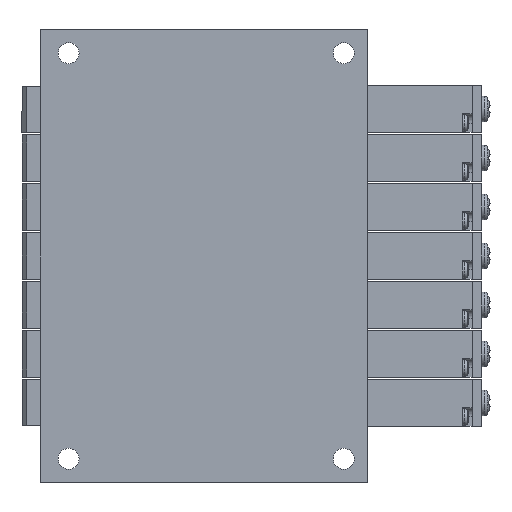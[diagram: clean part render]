
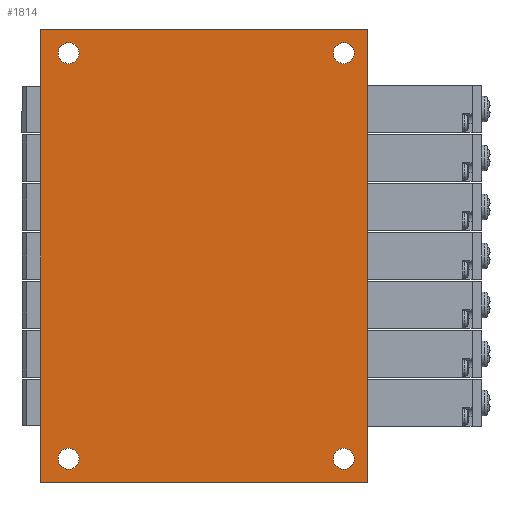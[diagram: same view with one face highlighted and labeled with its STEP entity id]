
A CAD part, front view. The second image highlights one B-rep face of the part: STEP entity #1814.
In plain terms, the highlighted planar face has unit normal (0, -1, 0) as drawn and (0, 0, 1) by its records, which use the part's own axes.
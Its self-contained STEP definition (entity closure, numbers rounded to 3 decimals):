
#1814=ADVANCED_FACE('',(#3942,#3943,#3944,#3945,#3946),#3947,.T.);
#3942=FACE_BOUND('',#6594,.T.);
#3943=FACE_BOUND('',#6595,.T.);
#3944=FACE_BOUND('',#6596,.T.);
#3945=FACE_BOUND('',#6597,.T.);
#3946=FACE_OUTER_BOUND('',#6598,.T.);
#3947=PLANE('',#6599);
#6594=EDGE_LOOP('',(#13767));
#6595=EDGE_LOOP('',(#13768));
#6596=EDGE_LOOP('',(#13769));
#6597=EDGE_LOOP('',(#13770));
#6598=EDGE_LOOP('',(#13771,#13772,#13773,#13774));
#6599=AXIS2_PLACEMENT_3D('',#13775,#13776,#13777);
#13767=ORIENTED_EDGE('',*,*,#18991,.F.);
#13768=ORIENTED_EDGE('',*,*,#18992,.T.);
#13769=ORIENTED_EDGE('',*,*,#18993,.F.);
#13770=ORIENTED_EDGE('',*,*,#18994,.T.);
#13771=ORIENTED_EDGE('',*,*,#18995,.T.);
#13772=ORIENTED_EDGE('',*,*,#18996,.T.);
#13773=ORIENTED_EDGE('',*,*,#18997,.T.);
#13774=ORIENTED_EDGE('',*,*,#18998,.T.);
#13775=CARTESIAN_POINT('',(-48.5,-35.0,25.889));
#13776=DIRECTION('',(0.0,0.0,1.0));
#13777=DIRECTION('',(1.0,0.0,0.0));
#18991=EDGE_CURVE('',#23314,#23314,#23315,.T.);
#18992=EDGE_CURVE('',#23316,#23316,#23317,.T.);
#18993=EDGE_CURVE('',#23318,#23318,#23319,.T.);
#18994=EDGE_CURVE('',#23320,#23320,#23321,.T.);
#18995=EDGE_CURVE('',#23322,#23323,#23324,.T.);
#18996=EDGE_CURVE('',#23323,#23325,#23326,.T.);
#18997=EDGE_CURVE('',#23325,#23327,#23328,.T.);
#18998=EDGE_CURVE('',#23327,#23322,#23329,.T.);
#23314=VERTEX_POINT('',#30478);
#23315=CIRCLE('',#30479,2.25);
#23316=VERTEX_POINT('',#30480);
#23317=CIRCLE('',#30481,2.25);
#23318=VERTEX_POINT('',#30482);
#23319=CIRCLE('',#30483,2.25);
#23320=VERTEX_POINT('',#30484);
#23321=CIRCLE('',#30485,2.25);
#23322=VERTEX_POINT('',#30486);
#23323=VERTEX_POINT('',#30487);
#23324=LINE('',#30488,#30489);
#23325=VERTEX_POINT('',#30490);
#23326=LINE('',#30491,#30492);
#23327=VERTEX_POINT('',#30493);
#23328=LINE('',#30494,#30495);
#23329=LINE('',#30496,#30497);
#30478=CARTESIAN_POINT('',(45.75,30.0,25.889));
#30479=AXIS2_PLACEMENT_3D('',#35926,#35927,#35928);
#30480=CARTESIAN_POINT('',(-45.75,30.0,25.889));
#30481=AXIS2_PLACEMENT_3D('',#35929,#35930,#35931);
#30482=CARTESIAN_POINT('',(45.75,-29.0,25.889));
#30483=AXIS2_PLACEMENT_3D('',#35932,#35933,#35934);
#30484=CARTESIAN_POINT('',(-45.75,-29.0,25.889));
#30485=AXIS2_PLACEMENT_3D('',#35935,#35936,#35937);
#30486=CARTESIAN_POINT('',(-48.5,35.0,25.889));
#30487=CARTESIAN_POINT('',(-48.5,-35.0,25.889));
#30488=CARTESIAN_POINT('',(-48.5,35.0,25.889));
#30489=VECTOR('',#35938,1.0);
#30490=CARTESIAN_POINT('',(48.5,-35.0,25.889));
#30491=CARTESIAN_POINT('',(-48.5,-35.0,25.889));
#30492=VECTOR('',#35939,1.0);
#30493=CARTESIAN_POINT('',(48.5,35.0,25.889));
#30494=CARTESIAN_POINT('',(48.5,-35.0,25.889));
#30495=VECTOR('',#35940,1.0);
#30496=CARTESIAN_POINT('',(48.5,35.0,25.889));
#30497=VECTOR('',#35941,1.0);
#35926=CARTESIAN_POINT('',(43.5,30.0,25.889));
#35927=DIRECTION('',(0.0,0.0,1.0));
#35928=DIRECTION('',(1.0,0.0,0.0));
#35929=CARTESIAN_POINT('',(-43.5,30.0,25.889));
#35930=DIRECTION('',(0.0,0.0,-1.0));
#35931=DIRECTION('',(-1.0,0.0,0.0));
#35932=CARTESIAN_POINT('',(43.5,-29.0,25.889));
#35933=DIRECTION('',(0.0,0.0,1.0));
#35934=DIRECTION('',(1.0,0.0,0.0));
#35935=CARTESIAN_POINT('',(-43.5,-29.0,25.889));
#35936=DIRECTION('',(0.0,0.0,-1.0));
#35937=DIRECTION('',(-1.0,0.0,0.0));
#35938=DIRECTION('',(0.0,-1.0,0.0));
#35939=DIRECTION('',(1.0,0.0,0.0));
#35940=DIRECTION('',(0.0,1.0,0.0));
#35941=DIRECTION('',(-1.0,0.0,0.0));
